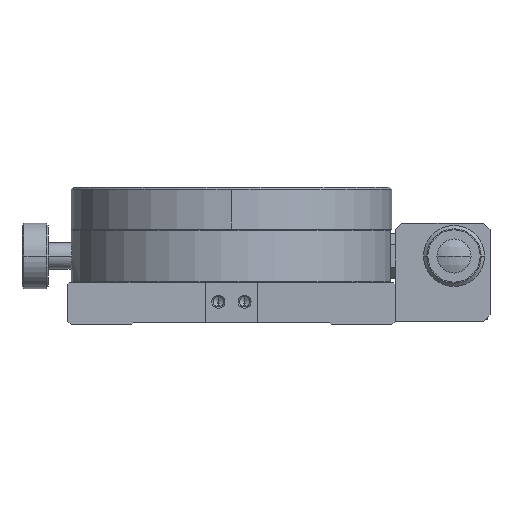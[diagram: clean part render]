
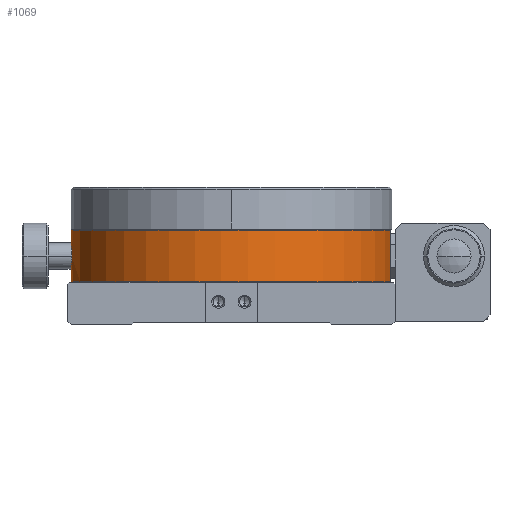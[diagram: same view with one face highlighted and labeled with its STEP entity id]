
A CAD part, front view. The second image highlights one B-rep face of the part: STEP entity #1069.
In plain terms, the highlighted cylindrical face has radius 24.5 mm (diameter 49 mm), a partial arc.
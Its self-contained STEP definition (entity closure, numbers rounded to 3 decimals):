
#882 = VERTEX_POINT ( 'NONE', #5208 ) ;
#927 = EDGE_CURVE ( 'NONE', #882, #928, #5296, .T. ) ;
#928 = VERTEX_POINT ( 'NONE', #5297 ) ;
#1044 = ORIENTED_EDGE ( 'NONE', *, *, #1045, .T. ) ;
#1045 = EDGE_CURVE ( 'NONE', #3669, #1046, #5603, .T. ) ;
#1046 = VERTEX_POINT ( 'NONE', #5604 ) ;
#1047 = ORIENTED_EDGE ( 'NONE', *, *, #1048, .T. ) ;
#1048 = EDGE_CURVE ( 'NONE', #1046, #1049, #5581, .T. ) ;
#1049 = VERTEX_POINT ( 'NONE', #5577 ) ;
#1050 = ORIENTED_EDGE ( 'NONE', *, *, #1051, .F. ) ;
#1051 = EDGE_CURVE ( 'NONE', #1063, #1049, #5576, .T. ) ;
#1052 = ORIENTED_EDGE ( 'NONE', *, *, #1062, .F. ) ;
#1053 = ORIENTED_EDGE ( 'NONE', *, *, #1054, .T. ) ;
#1054 = EDGE_CURVE ( 'NONE', #1060, #928, #5571, .T. ) ;
#1055 = ORIENTED_EDGE ( 'NONE', *, *, #927, .F. ) ;
#1056 = ORIENTED_EDGE ( 'NONE', *, *, #1057, .F. ) ;
#1057 = EDGE_CURVE ( 'NONE', #21405, #882, #5628, .T. ) ;
#1060 = VERTEX_POINT ( 'NONE', #5626 ) ;
#1062 = EDGE_CURVE ( 'NONE', #1060, #1063, #5611, .T. ) ;
#1063 = VERTEX_POINT ( 'NONE', #5657 ) ;
#1069 = ADVANCED_FACE ( 'NONE', ( #5646 ), #5645, .T. ) ;
#1070 = EDGE_LOOP ( 'NONE', ( #1071, #1044, #1047, #1050, #1052, #1053, #1055, #1056 ) ) ;
#1071 = ORIENTED_EDGE ( 'NONE', *, *, #21404, .F. ) ;
#3669 = VERTEX_POINT ( 'NONE', #10131 ) ;
#5208 = CARTESIAN_POINT ( 'NONE',  ( -2.001, 24.418, -4. ) ) ;
#5295 = CARTESIAN_POINT ( 'NONE',  ( -2.001, 24.418, -4. ) ) ;
#5296 = B_SPLINE_CURVE_WITH_KNOTS ( 'NONE', 3,
 ( #5295, #5351, #5350, #5349, #5348, #5347, #5346, #5345, #5344, #5343, #5342, #5341, #5340, #5339, #5338, #5337, #5336, #5335 ),
 .UNSPECIFIED., .F., .F.,
 ( 4, 2, 2, 2, 2, 2, 2, 2, 4 ),
 ( 0.003, 0.003, 0.004, 0.004, 0.004, 0.005, 0.005, 0.005, 0.006 ),
 .UNSPECIFIED. ) ;
#5297 = CARTESIAN_POINT ( 'NONE',  ( -0.442, 24.496, -2.049 ) ) ;
#5335 = CARTESIAN_POINT ( 'NONE',  ( -0.442, 24.496, -2.049 ) ) ;
#5336 = CARTESIAN_POINT ( 'NONE',  ( -0.551, 24.494, -2.074 ) ) ;
#5337 = CARTESIAN_POINT ( 'NONE',  ( -0.658, 24.491, -2.108 ) ) ;
#5338 = CARTESIAN_POINT ( 'NONE',  ( -0.866, 24.485, -2.194 ) ) ;
#5339 = CARTESIAN_POINT ( 'NONE',  ( -0.967, 24.481, -2.246 ) ) ;
#5340 = CARTESIAN_POINT ( 'NONE',  ( -1.157, 24.473, -2.365 ) ) ;
#5341 = CARTESIAN_POINT ( 'NONE',  ( -1.247, 24.468, -2.432 ) ) ;
#5342 = CARTESIAN_POINT ( 'NONE',  ( -1.415, 24.459, -2.581 ) ) ;
#5343 = CARTESIAN_POINT ( 'NONE',  ( -1.493, 24.455, -2.664 ) ) ;
#5344 = CARTESIAN_POINT ( 'NONE',  ( -1.633, 24.446, -2.839 ) ) ;
#5345 = CARTESIAN_POINT ( 'NONE',  ( -1.695, 24.441, -2.932 ) ) ;
#5346 = CARTESIAN_POINT ( 'NONE',  ( -1.804, 24.434, -3.129 ) ) ;
#5347 = CARTESIAN_POINT ( 'NONE',  ( -1.851, 24.43, -3.233 ) ) ;
#5348 = CARTESIAN_POINT ( 'NONE',  ( -1.925, 24.424, -3.444 ) ) ;
#5349 = CARTESIAN_POINT ( 'NONE',  ( -1.953, 24.422, -3.553 ) ) ;
#5350 = CARTESIAN_POINT ( 'NONE',  ( -1.991, 24.419, -3.774 ) ) ;
#5351 = CARTESIAN_POINT ( 'NONE',  ( -2.001, 24.418, -3.888 ) ) ;
#5571 = B_SPLINE_CURVE_WITH_KNOTS ( 'NONE', 3,
 ( #5634, #5633, #5632, #5631, #5630, #5629 ),
 .UNSPECIFIED., .F., .F.,
 ( 4, 2, 4 ),
 ( 0.009, 0.01, 0.01 ),
 .UNSPECIFIED. ) ;
#5572 = DIRECTION ( 'NONE',  ( 0., 1., 0. ) ) ;
#5573 = DIRECTION ( 'NONE',  ( 0., 0., 1. ) ) ;
#5574 = CARTESIAN_POINT ( 'NONE',  ( 0., 0., -0.1 ) ) ;
#5575 = AXIS2_PLACEMENT_3D ( 'NONE', #5574, #5573, #5572 ) ;
#5576 = CIRCLE ( 'NONE', #5575, 24.5 ) ;
#5577 = CARTESIAN_POINT ( 'NONE',  ( -3.05, -24.309, -0.1 ) ) ;
#5578 = DIRECTION ( 'NONE',  ( 0., 0., 1. ) ) ;
#5579 = VECTOR ( 'NONE', #5578, 1000. ) ;
#5580 = CARTESIAN_POINT ( 'NONE',  ( -3.05, -24.309, -8.001 ) ) ;
#5581 = LINE ( 'NONE', #5580, #5579 ) ;
#5599 = DIRECTION ( 'NONE',  ( 0., 1., 0. ) ) ;
#5600 = DIRECTION ( 'NONE',  ( 0., 0., 1. ) ) ;
#5601 = CARTESIAN_POINT ( 'NONE',  ( 0., 0., -7.9 ) ) ;
#5602 = AXIS2_PLACEMENT_3D ( 'NONE', #5601, #5600, #5599 ) ;
#5603 = CIRCLE ( 'NONE', #5602, 24.5 ) ;
#5604 = CARTESIAN_POINT ( 'NONE',  ( -3.05, -24.309, -7.9 ) ) ;
#5608 = DIRECTION ( 'NONE',  ( 0., 0., 1. ) ) ;
#5609 = VECTOR ( 'NONE', #5608, 1000. ) ;
#5610 = CARTESIAN_POINT ( 'NONE',  ( 0., 24.5, 6.27 ) ) ;
#5611 = LINE ( 'NONE', #5610, #5609 ) ;
#5612 = CARTESIAN_POINT ( 'NONE',  ( -2.001, 24.418, -4. ) ) ;
#5613 = CARTESIAN_POINT ( 'NONE',  ( -2.001, 24.418, -4.261 ) ) ;
#5614 = CARTESIAN_POINT ( 'NONE',  ( -1.948, 24.423, -4.525 ) ) ;
#5615 = CARTESIAN_POINT ( 'NONE',  ( -1.749, 24.438, -5.006 ) ) ;
#5616 = CARTESIAN_POINT ( 'NONE',  ( -1.6, 24.448, -5.229 ) ) ;
#5617 = CARTESIAN_POINT ( 'NONE',  ( -1.323, 24.464, -5.506 ) ) ;
#5618 = CARTESIAN_POINT ( 'NONE',  ( -1.22, 24.47, -5.591 ) ) ;
#5619 = CARTESIAN_POINT ( 'NONE',  ( -1.002, 24.48, -5.736 ) ) ;
#5620 = CARTESIAN_POINT ( 'NONE',  ( -0.888, 24.484, -5.797 ) ) ;
#5621 = CARTESIAN_POINT ( 'NONE',  ( -0.645, 24.492, -5.898 ) ) ;
#5622 = CARTESIAN_POINT ( 'NONE',  ( -0.518, 24.495, -5.936 ) ) ;
#5623 = CARTESIAN_POINT ( 'NONE',  ( -0.262, 24.499, -5.987 ) ) ;
#5624 = CARTESIAN_POINT ( 'NONE',  ( -0.132, 24.5, -6. ) ) ;
#5625 = CARTESIAN_POINT ( 'NONE',  ( 0., 24.5, -6. ) ) ;
#5626 = CARTESIAN_POINT ( 'NONE',  ( 0., 24.5, -2. ) ) ;
#5628 = B_SPLINE_CURVE_WITH_KNOTS ( 'NONE', 3,
 ( #5625, #5624, #5623, #5622, #5621, #5620, #5619, #5618, #5617, #5616, #5615, #5614, #5613, #5612 ),
 .UNSPECIFIED., .F., .F.,
 ( 4, 2, 2, 2, 2, 2, 4 ),
 ( 0., 0., 0.001, 0.001, 0.002, 0.002, 0.003 ),
 .UNSPECIFIED. ) ;
#5629 = CARTESIAN_POINT ( 'NONE',  ( -0.442, 24.496, -2.049 ) ) ;
#5630 = CARTESIAN_POINT ( 'NONE',  ( -0.37, 24.497, -2.033 ) ) ;
#5631 = CARTESIAN_POINT ( 'NONE',  ( -0.297, 24.498, -2.021 ) ) ;
#5632 = CARTESIAN_POINT ( 'NONE',  ( -0.15, 24.5, -2.004 ) ) ;
#5633 = CARTESIAN_POINT ( 'NONE',  ( -0.075, 24.5, -2. ) ) ;
#5634 = CARTESIAN_POINT ( 'NONE',  ( 0., 24.5, -2. ) ) ;
#5640 = DIRECTION ( 'NONE',  ( 0., 1., 0. ) ) ;
#5641 = DIRECTION ( 'NONE',  ( 0., 0., 1. ) ) ;
#5642 = CARTESIAN_POINT ( 'NONE',  ( 0., 0., 6.27 ) ) ;
#5643 = AXIS2_PLACEMENT_3D ( 'NONE', #5642, #5641, #5640 ) ;
#5645 = CYLINDRICAL_SURFACE ( 'NONE', #5643, 24.5 ) ;
#5646 = FACE_OUTER_BOUND ( 'NONE', #1070, .T. ) ;
#5657 = CARTESIAN_POINT ( 'NONE',  ( 0., 24.5, -0.1 ) ) ;
#10131 = CARTESIAN_POINT ( 'NONE',  ( 0., 24.5, -7.9 ) ) ;
#10457 = DIRECTION ( 'NONE',  ( 0., 0., 1. ) ) ;
#10458 = VECTOR ( 'NONE', #10457, 1000. ) ;
#10465 = CARTESIAN_POINT ( 'NONE',  ( 0., 24.5, 6.27 ) ) ;
#10466 = CARTESIAN_POINT ( 'NONE',  ( 0., 24.5, -6. ) ) ;
#10467 = LINE ( 'NONE', #10465, #10458 ) ;
#21404 = EDGE_CURVE ( 'NONE', #3669, #21405, #10467, .T. ) ;
#21405 = VERTEX_POINT ( 'NONE', #10466 ) ;
